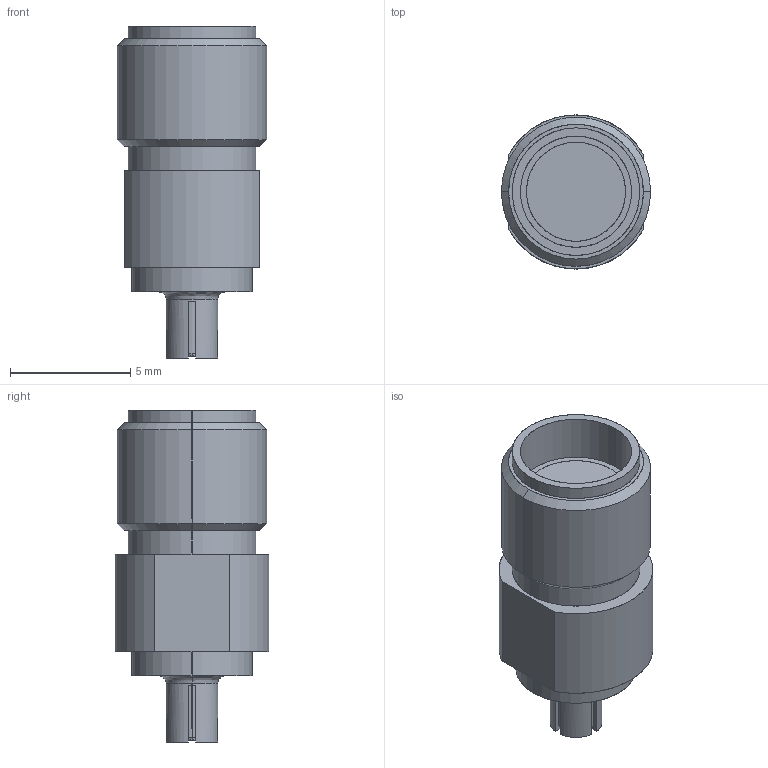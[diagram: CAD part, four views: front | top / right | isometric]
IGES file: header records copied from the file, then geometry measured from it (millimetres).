
Start section: SolidWorks IGES file using analytic representation for surfaces
Global section: file name: C:\3dwork\Toida\アダプタ関連　3Dモデル\90543-002\90543-002_MHF5  SMA adapter.IGS; native system: SolidWorks 2017; preprocessor: SolidWorks 2017; author: ipxcad-021; date: 200331.161846; units: millimetre
Bounding box: 6.2 x 6.4 x 13.8 mm (x, y, z)
Surface area: 345.9 mm2 (no closed solid volume)
Topology: 0 solids, 0 shells, 102 faces, 1129 edges, 1129 vertices
Faces by surface type: bspline 70, revolution 32
